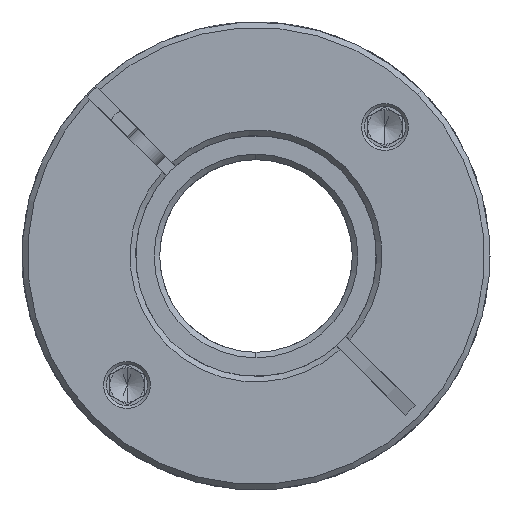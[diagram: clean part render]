
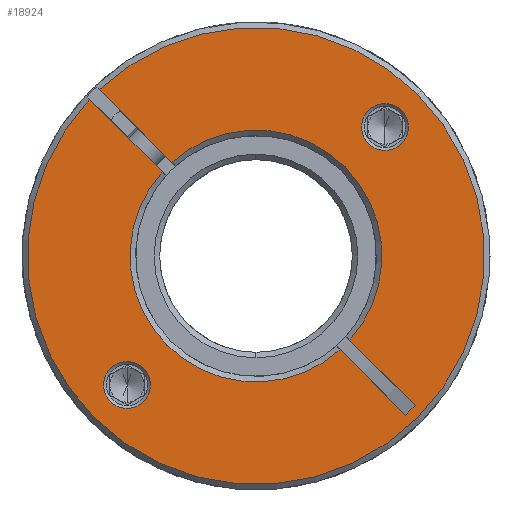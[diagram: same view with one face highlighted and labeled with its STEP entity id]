
A CAD part, front view. The second image highlights one B-rep face of the part: STEP entity #18924.
In plain terms, the highlighted planar face has unit normal (0, -1, 0).
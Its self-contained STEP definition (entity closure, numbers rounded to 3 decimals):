
#121 = VERTEX_POINT ( 'NONE', #6473 ) ;
#224 = DIRECTION ( 'NONE',  ( 0.707, 0., 0.707 ) ) ;
#248 = LINE ( 'NONE', #4659, #9234 ) ;
#427 = CARTESIAN_POINT ( 'NONE',  ( 20.402, -67.045, 46.277 ) ) ;
#487 = DIRECTION ( 'NONE',  ( 0., 1., 0. ) ) ;
#548 = EDGE_LOOP ( 'NONE', ( #10580, #19719 ) ) ;
#1068 = EDGE_CURVE ( 'NONE', #10282, #1191, #13222, .T. ) ;
#1191 = VERTEX_POINT ( 'NONE', #20906 ) ;
#1198 = EDGE_CURVE ( 'NONE', #3802, #11584, #11671, .T. ) ;
#1518 = AXIS2_PLACEMENT_3D ( 'NONE', #8606, #16580, #10118 ) ;
#1968 = DIRECTION ( 'NONE',  ( 0., 1., 0. ) ) ;
#2174 = CARTESIAN_POINT ( 'NONE',  ( -2.735, -67.045, 68. ) ) ;
#2564 = LINE ( 'NONE', #14819, #10548 ) ;
#2626 = VERTEX_POINT ( 'NONE', #12069 ) ;
#2722 = CARTESIAN_POINT ( 'NONE',  ( -16.363, -67.045, 80.214 ) ) ;
#2762 = CARTESIAN_POINT ( 'NONE',  ( -23.878, -67.045, 46.858 ) ) ;
#2828 = DIRECTION ( 'NONE',  ( 0.707, 0., 0.707 ) ) ;
#3797 = ORIENTED_EDGE ( 'NONE', *, *, #20234, .T. ) ;
#3802 = VERTEX_POINT ( 'NONE', #2762 ) ;
#4079 = VERTEX_POINT ( 'NONE', #14513 ) ;
#4168 = CARTESIAN_POINT ( 'NONE',  ( 18.407, -67.045, 89.142 ) ) ;
#4200 = EDGE_CURVE ( 'NONE', #18942, #4079, #20301, .T. ) ;
#4455 = DIRECTION ( 'NONE',  ( 0.707, 0., 0.707 ) ) ;
#4659 = CARTESIAN_POINT ( 'NONE',  ( -3.442, -67.045, 67.293 ) ) ;
#4882 = CARTESIAN_POINT ( 'NONE',  ( 10.205, -67.045, 80.94 ) ) ;
#5019 = CIRCLE ( 'NONE', #20913, 3.4 ) ;
#5046 = LINE ( 'NONE', #14894, #17692 ) ;
#5230 = CIRCLE ( 'NONE', #18078, 18.3 ) ;
#5374 = FACE_OUTER_BOUND ( 'NONE', #7433, .T. ) ;
#5436 = DIRECTION ( 'NONE',  ( 0.707, 0., 0.707 ) ) ;
#5487 = AXIS2_PLACEMENT_3D ( 'NONE', #16337, #11331, #14526 ) ;
#5683 = VERTEX_POINT ( 'NONE', #15335 ) ;
#5916 = ORIENTED_EDGE ( 'NONE', *, *, #16660, .T. ) ;
#6124 = CARTESIAN_POINT ( 'NONE',  ( 20.741, -67.045, 91.476 ) ) ;
#6473 = CARTESIAN_POINT ( 'NONE',  ( -26.211, -67.045, 44.524 ) ) ;
#6940 = DIRECTION ( 'NONE',  ( 0.707, 0., 0.707 ) ) ;
#7341 = VERTEX_POINT ( 'NONE', #6124 ) ;
#7433 = EDGE_LOOP ( 'NONE', ( #19681, #20641, #9593, #21354, #8408, #17313, #17197, #10529, #3797, #7855, #5916 ) ) ;
#7468 = CIRCLE ( 'NONE', #1518, 3.4 ) ;
#7512 = VERTEX_POINT ( 'NONE', #13442 ) ;
#7855 = ORIENTED_EDGE ( 'NONE', *, *, #11262, .F. ) ;
#8193 = CARTESIAN_POINT ( 'NONE',  ( -21.473, -67.045, 49.262 ) ) ;
#8408 = ORIENTED_EDGE ( 'NONE', *, *, #1068, .T. ) ;
#8476 = EDGE_CURVE ( 'NONE', #11584, #3802, #7468, .T. ) ;
#8606 = CARTESIAN_POINT ( 'NONE',  ( -21.473, -67.045, 49.262 ) ) ;
#8645 = DIRECTION ( 'NONE',  ( 0., 1., 0. ) ) ;
#9015 = EDGE_CURVE ( 'NONE', #15386, #7512, #18847, .T. ) ;
#9087 = VERTEX_POINT ( 'NONE', #427 ) ;
#9234 = VECTOR ( 'NONE', #19602, 1000. ) ;
#9284 = CARTESIAN_POINT ( 'NONE',  ( -2.735, -67.045, 68. ) ) ;
#9539 = EDGE_CURVE ( 'NONE', #7512, #9087, #15448, .T. ) ;
#9593 = ORIENTED_EDGE ( 'NONE', *, *, #20534, .T. ) ;
#9633 = CIRCLE ( 'NONE', #20218, 33.2 ) ;
#9689 = ORIENTED_EDGE ( 'NONE', *, *, #15148, .T. ) ;
#10115 = DIRECTION ( 'NONE',  ( 0.707, 0., -0.707 ) ) ;
#10118 = DIRECTION ( 'NONE',  ( 0.707, 0., 0.707 ) ) ;
#10282 = VERTEX_POINT ( 'NONE', #11811 ) ;
#10489 = FACE_BOUND ( 'NONE', #548, .T. ) ;
#10529 = ORIENTED_EDGE ( 'NONE', *, *, #9539, .T. ) ;
#10548 = VECTOR ( 'NONE', #10115, 1000. ) ;
#10580 = ORIENTED_EDGE ( 'NONE', *, *, #8476, .T. ) ;
#10610 = VERTEX_POINT ( 'NONE', #2722 ) ;
#10892 = EDGE_CURVE ( 'NONE', #2626, #10610, #2564, .T. ) ;
#11260 = EDGE_CURVE ( 'NONE', #2626, #121, #17800, .T. ) ;
#11262 = EDGE_CURVE ( 'NONE', #12290, #5683, #248, .T. ) ;
#11293 = DIRECTION ( 'NONE',  ( -0.707, 0., -0.707 ) ) ;
#11331 = DIRECTION ( 'NONE',  ( 0., -1., 0. ) ) ;
#11444 = DIRECTION ( 'NONE',  ( 0., 1., 0. ) ) ;
#11508 = CARTESIAN_POINT ( 'NONE',  ( -2.735, -67.045, 68. ) ) ;
#11584 = VERTEX_POINT ( 'NONE', #16764 ) ;
#11671 = CIRCLE ( 'NONE', #15970, 3.4 ) ;
#11811 = CARTESIAN_POINT ( 'NONE',  ( -25.493, -67.045, 92.172 ) ) ;
#12069 = CARTESIAN_POINT ( 'NONE',  ( -26.908, -67.045, 90.758 ) ) ;
#12174 = CIRCLE ( 'NONE', #18896, 33.2 ) ;
#12290 = VERTEX_POINT ( 'NONE', #15215 ) ;
#12679 = AXIS2_PLACEMENT_3D ( 'NONE', #2174, #18683, #18757 ) ;
#12879 = DIRECTION ( 'NONE',  ( 0., -1., 0. ) ) ;
#13023 = EDGE_CURVE ( 'NONE', #1191, #15386, #13024, .T. ) ;
#13024 = CIRCLE ( 'NONE', #13718, 18.3 ) ;
#13110 = EDGE_LOOP ( 'NONE', ( #20891, #9689 ) ) ;
#13222 = LINE ( 'NONE', #17400, #13480 ) ;
#13442 = CARTESIAN_POINT ( 'NONE',  ( 10.893, -67.045, 55.786 ) ) ;
#13480 = VECTOR ( 'NONE', #17194, 1000. ) ;
#13609 = VECTOR ( 'NONE', #19688, 1000. ) ;
#13718 = AXIS2_PLACEMENT_3D ( 'NONE', #11508, #19841, #224 ) ;
#13766 = CARTESIAN_POINT ( 'NONE',  ( 16.003, -67.045, 86.738 ) ) ;
#13930 = AXIS2_PLACEMENT_3D ( 'NONE', #15905, #15695, #4455 ) ;
#14294 = AXIS2_PLACEMENT_3D ( 'NONE', #20075, #1968, #6940 ) ;
#14513 = CARTESIAN_POINT ( 'NONE',  ( 13.599, -67.045, 84.334 ) ) ;
#14526 = DIRECTION ( 'NONE',  ( 0.707, 0., 0.707 ) ) ;
#14819 = CARTESIAN_POINT ( 'NONE',  ( -3.442, -67.045, 67.293 ) ) ;
#14834 = DIRECTION ( 'NONE',  ( 0.707, 0., 0.707 ) ) ;
#14894 = CARTESIAN_POINT ( 'NONE',  ( 18.988, -67.045, 44.862 ) ) ;
#15148 = EDGE_CURVE ( 'NONE', #4079, #18942, #5019, .T. ) ;
#15215 = CARTESIAN_POINT ( 'NONE',  ( 9.479, -67.045, 54.372 ) ) ;
#15335 = CARTESIAN_POINT ( 'NONE',  ( 18.988, -67.045, 44.862 ) ) ;
#15386 = VERTEX_POINT ( 'NONE', #4882 ) ;
#15448 = LINE ( 'NONE', #18030, #13609 ) ;
#15695 = DIRECTION ( 'NONE',  ( 0., -1., 0. ) ) ;
#15724 = EDGE_CURVE ( 'NONE', #7341, #10282, #12174, .T. ) ;
#15732 = CARTESIAN_POINT ( 'NONE',  ( -2.735, -67.045, 68. ) ) ;
#15805 = DIRECTION ( 'NONE',  ( 0., -1., 0. ) ) ;
#15905 = CARTESIAN_POINT ( 'NONE',  ( -2.735, -67.045, 68. ) ) ;
#15970 = AXIS2_PLACEMENT_3D ( 'NONE', #8193, #11444, #14834 ) ;
#16337 = CARTESIAN_POINT ( 'NONE',  ( -2.735, -67.045, 68. ) ) ;
#16580 = DIRECTION ( 'NONE',  ( 0., 1., 0. ) ) ;
#16660 = EDGE_CURVE ( 'NONE', #12290, #10610, #5230, .T. ) ;
#16764 = CARTESIAN_POINT ( 'NONE',  ( -19.069, -67.045, 51.666 ) ) ;
#17031 = CARTESIAN_POINT ( 'NONE',  ( -2.735, -67.045, 68. ) ) ;
#17194 = DIRECTION ( 'NONE',  ( 0.707, 0., -0.707 ) ) ;
#17197 = ORIENTED_EDGE ( 'NONE', *, *, #9015, .T. ) ;
#17240 = FACE_BOUND ( 'NONE', #13110, .T. ) ;
#17313 = ORIENTED_EDGE ( 'NONE', *, *, #13023, .T. ) ;
#17400 = CARTESIAN_POINT ( 'NONE',  ( -2.028, -67.045, 68.707 ) ) ;
#17488 = DIRECTION ( 'NONE',  ( 0.707, 0., 0.707 ) ) ;
#17692 = VECTOR ( 'NONE', #11293, 1000. ) ;
#17800 = CIRCLE ( 'NONE', #5487, 33.2 ) ;
#18030 = CARTESIAN_POINT ( 'NONE',  ( -2.028, -67.045, 68.707 ) ) ;
#18078 = AXIS2_PLACEMENT_3D ( 'NONE', #17031, #487, #20321 ) ;
#18683 = DIRECTION ( 'NONE',  ( 0., 1., 0. ) ) ;
#18757 = DIRECTION ( 'NONE',  ( 0.707, 0., 0.707 ) ) ;
#18847 = CIRCLE ( 'NONE', #12679, 18.3 ) ;
#18896 = AXIS2_PLACEMENT_3D ( 'NONE', #15732, #15805, #17488 ) ;
#18924 = ADVANCED_FACE ( 'NONE', ( #17240, #10489, #5374 ), #19260, .T. ) ;
#18942 = VERTEX_POINT ( 'NONE', #4168 ) ;
#19260 = PLANE ( 'NONE',  #13930 ) ;
#19602 = DIRECTION ( 'NONE',  ( 0.707, 0., -0.707 ) ) ;
#19681 = ORIENTED_EDGE ( 'NONE', *, *, #10892, .F. ) ;
#19688 = DIRECTION ( 'NONE',  ( 0.707, 0., -0.707 ) ) ;
#19719 = ORIENTED_EDGE ( 'NONE', *, *, #1198, .T. ) ;
#19841 = DIRECTION ( 'NONE',  ( 0., 1., 0. ) ) ;
#20075 = CARTESIAN_POINT ( 'NONE',  ( 16.003, -67.045, 86.738 ) ) ;
#20218 = AXIS2_PLACEMENT_3D ( 'NONE', #9284, #12879, #2828 ) ;
#20234 = EDGE_CURVE ( 'NONE', #9087, #5683, #5046, .T. ) ;
#20301 = CIRCLE ( 'NONE', #14294, 3.4 ) ;
#20321 = DIRECTION ( 'NONE',  ( 0.707, 0., 0.707 ) ) ;
#20534 = EDGE_CURVE ( 'NONE', #121, #7341, #9633, .T. ) ;
#20641 = ORIENTED_EDGE ( 'NONE', *, *, #11260, .T. ) ;
#20891 = ORIENTED_EDGE ( 'NONE', *, *, #4200, .T. ) ;
#20906 = CARTESIAN_POINT ( 'NONE',  ( -14.949, -67.045, 81.628 ) ) ;
#20913 = AXIS2_PLACEMENT_3D ( 'NONE', #13766, #8645, #5436 ) ;
#21354 = ORIENTED_EDGE ( 'NONE', *, *, #15724, .T. ) ;
